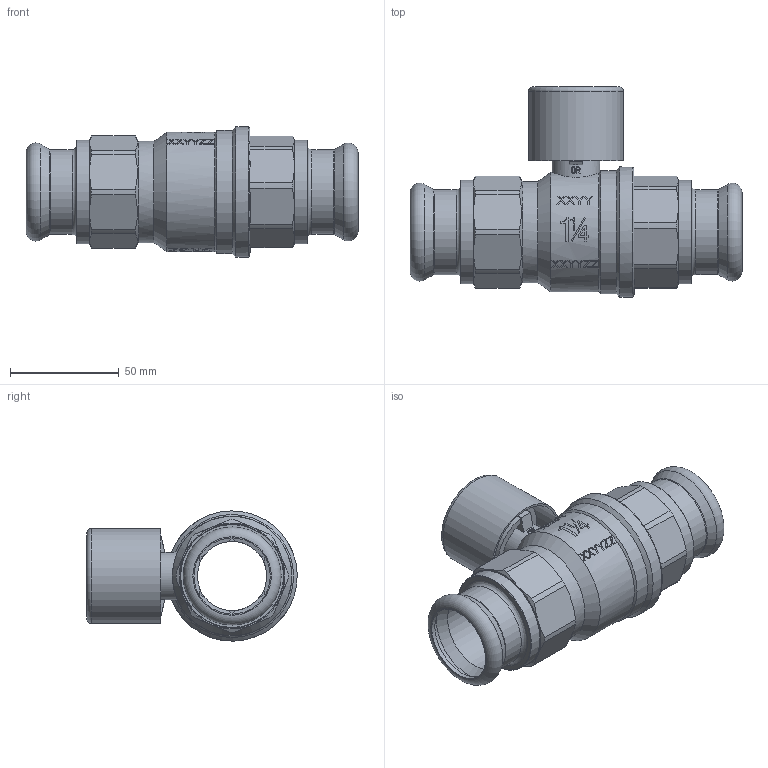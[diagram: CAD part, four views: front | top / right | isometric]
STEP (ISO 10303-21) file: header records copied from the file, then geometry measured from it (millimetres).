
FILE_DESCRIPTION((''),'2;1');
FILE_NAME('P:\Fastrack\53972_CRANE 3D\Press Fit\HATTERSLEY\100LS-PF\35MM\Fig_100LS-PF-35MM.stp','2011-12-12T10:58:18',('dcole'),(''),'Autodesk Inventor 2008','Autodesk Inventor 2008','');
FILE_SCHEMA(('AUTOMOTIVE_DESIGN { 1 0 10303 214 1 1 1 1 }'));
Length unit declared in the file: millimetre
Products named in the file (1): Fig_100LS-PF-35MM
Bounding box: 152.4 x 96.6 x 59.79 mm (x, y, z)
Volume: 167365.5 mm3; surface area: 69651.9 mm2
Topology: 1 solids, 1 shells, 897 faces, 2431 edges, 1599 vertices
Faces by surface type: plane 466, bspline 236, cylinder 109, cone 78, torus 8
Full cylindrical faces by diameter (mm): 2 x1, 12 x1, 12.1 x2, 12.5 x1, 16 x1, 16.3 x1, 16.5 x2, 22 x1, 28.2 x1, 30 x2, 32 x5, 35 x4, 36 x2, 38.952 x2, 39 x2, 41.4 x1, 43.4 x1, 46.5 x1, 47.6 x2, 54.8 x1, 56.5 x1, 59.8 x1
Entity records: 56957 total; most frequent: CARTESIAN_POINT 35858, ORIENTED_EDGE 4636, DIRECTION 3495, EDGE_CURVE 2318, VERTEX_POINT 1568, VECTOR 1295, LINE 1295, AXIS2_PLACEMENT_3D 1100
